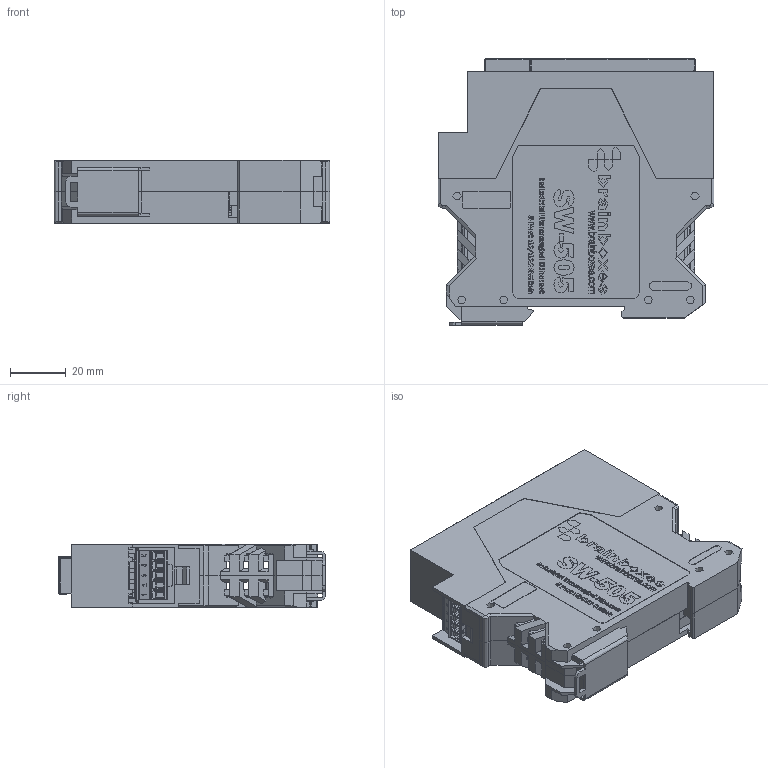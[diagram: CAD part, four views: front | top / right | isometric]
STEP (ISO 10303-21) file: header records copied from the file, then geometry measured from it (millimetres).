
FILE_DESCRIPTION(('FreeCAD Model'),'2;1');
FILE_NAME('Open CASCADE Shape Model','2023-02-27T14:57:17',('Author'),( ''),'Open CASCADE STEP processor 7.6','FreeCAD','Unknown');
FILE_SCHEMA(('AUTOMOTIVE_DESIGN { 1 0 10303 214 1 1 1 1 }'));
Products named in the file (1): SW-505 Cased PCB 3D Step001
Bounding box: 99 x 95.58 x 22.8 mm (x, y, z)
Volume: 69604.6 mm3; surface area: 108285.4 mm2
Topology: 229 solids, 245 shells, 11883 faces, 33219 edges, 21757 vertices
Faces by surface type: plane 9868, cylinder 1330, bspline 576, torus 57, cone 28, sphere 24
Full cylindrical faces by diameter (mm): 3.81 x1
Entity records: 469723 total; most frequent: CARTESIAN_POINT 78858, ORIENTED_EDGE 66396, DIRECTION 58521, EDGE_CURVE 33198, LINE 28907, VECTOR 28907, VERTEX_POINT 21757, AXIS2_PLACEMENT_3D 14807
